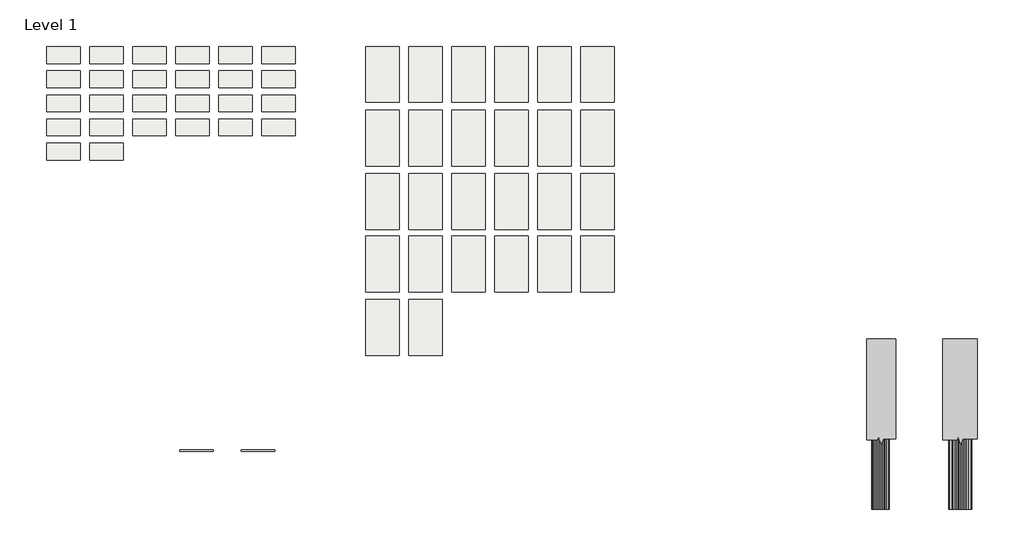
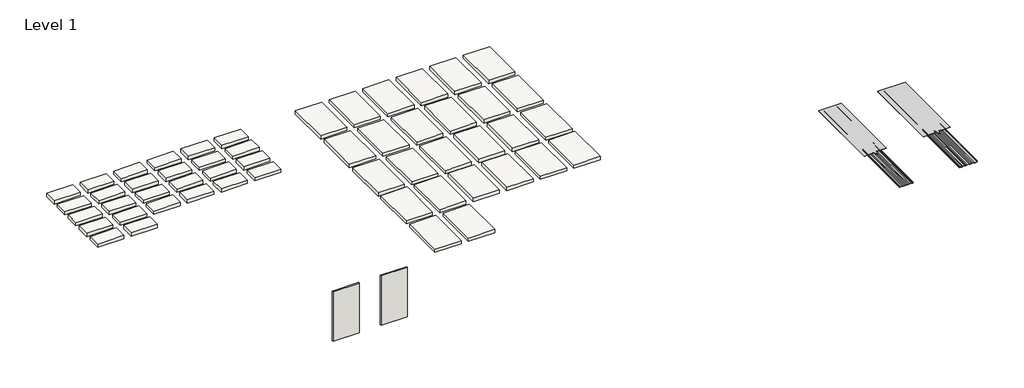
# One storey: 52 slabs, 4 proxies, 2 walls.
"""IFC4 building model written with IfcOpenShell, lengths in millimetres."""

from ifc_helpers import new_model, si_unit, frame, origin, place, context, project, spatial, polyline, outline, extrude, transform, mapped, element, save
from components import section_mask1_section_mask_51df3ead, section_mask2_section_mask_aa1896d1, proxy_a87bcd5d, proxy_86c54d77

model = new_model("IFC4")

# Units and contexts
model_context = context("Model", 3, world=origin())
ifc_project = project(units=[si_unit("LENGTHUNIT", "METRE", prefix="MILLI")], contexts=[model_context])

# Site, building, storey
site = spatial("IfcSite", under=ifc_project)
building = spatial("IfcBuilding", under=site)
storey = spatial("IfcBuildingStorey", under=building, Name="Level 1", Elevation=0.0)

# Proxies
placement = place(None, origin())
section_mask1_section_mask_shape = section_mask1_section_mask_51df3ead(model_context)
element("IfcBuildingElementProxy", 1, Name="Section Mask1 : Section Mask", ObjectType="Section Mask1 : Section Mask", at=placement, inside=storey, context=model_context, shape_type="MappedRepresentation", body=[
    mapped(section_mask1_section_mask_shape, transform((1741.0623297, -275.8300996, -14.2875), x_axis=(1.0, 0.0, 0.0), y_axis=(0.0, 1.0, 0.0), z_axis=(0.0, 0.0, 1.0))),
])
section_mask2_section_mask_shape = section_mask2_section_mask_aa1896d1(model_context)
element("IfcBuildingElementProxy", 2, Name="Section Mask2 : Section Mask", ObjectType="Section Mask2 : Section Mask", at=placement, inside=storey, context=model_context, shape_type="MappedRepresentation", body=[
    mapped(section_mask2_section_mask_shape, transform((3188.8623297, -275.8300996, -14.2875), x_axis=(1.0, 0.0, 0.0), y_axis=(0.0, 1.0, 0.0), z_axis=(0.0, 0.0, 1.0))),
])
proxy_shape = proxy_a87bcd5d(model_context)
element("IfcBuildingElementProxy", 3, Name="Select-Seam-Shingle : 12\" Select Seam - Shingle Cladding - 22ga", ObjectType="Select-Seam-Shingle : 12\" Select Seam - Shingle Cladding - 22ga", at=placement, inside=storey, context=model_context, shape_type="MappedRepresentation", body=[
    mapped(proxy_shape, transform((10226.8298747, 2141.4522943, 0.0), x_axis=(1.0, 0.0, 0.0), y_axis=(0.0, 1.0, 0.0), z_axis=(0.0, 0.0, 1.0))),
])
proxy_2_shape = proxy_86c54d77(model_context)
element("IfcBuildingElementProxy", 4, Name="Select-Seam-Shingle : 16\" Select Seam - Shingle Cladding - 22ga", ObjectType="Select-Seam-Shingle : 16\" Select Seam - Shingle Cladding - 22ga", at=placement, inside=storey, context=model_context, shape_type="MappedRepresentation", body=[
    mapped(proxy_2_shape, transform((11674.6298747, 2141.4522943, 0.0), x_axis=(1.0, 0.0, 0.0), y_axis=(0.0, 1.0, 0.0), z_axis=(0.0, 0.0, 1.0))),
])

# Slabs
element("IfcSlab", 5, ObjectType="AEP Span Material Sample", at=placement, inside=storey, context=model_context, shape_type="SweptSolid", body=[
    extrude(outline(polyline([(-4307.8660775, 7199.3976846), (-4917.4660775, 7199.3976846), (-4917.4660775, 7504.1976846), (-4307.8660775, 7504.1976846), (-4307.8660775, 7199.3976846)])), frame((0.0, 0.0, -79.375), z_axis=(0.0, 0.0, 1.0), x_axis=(1.0, 0.0, 0.0)), (0.0, 0.0, 1.0), 79.375),
])
element("IfcSlab", 6, ObjectType="AEP Span Material Sample", at=placement, inside=storey, context=model_context, shape_type="SweptSolid", body=[
    extrude(outline(polyline([(-3526.8160775, 7199.3976846), (-4136.4160775, 7199.3976846), (-4136.4160775, 7504.1976846), (-3526.8160775, 7504.1976846), (-3526.8160775, 7199.3976846)])), frame((0.0, 0.0, -79.375), z_axis=(0.0, 0.0, 1.0), x_axis=(1.0, 0.0, 0.0)), (0.0, 0.0, 1.0), 79.375),
])
element("IfcSlab", 7, ObjectType="AEP Span Material Sample", at=placement, inside=storey, context=model_context, shape_type="SweptSolid", body=[
    extrude(outline(polyline([(-2745.7660775, 7199.3976846), (-3355.3660775, 7199.3976846), (-3355.3660775, 7504.1976846), (-2745.7660775, 7504.1976846), (-2745.7660775, 7199.3976846)])), frame((0.0, 0.0, -79.375), z_axis=(0.0, 0.0, 1.0), x_axis=(1.0, 0.0, 0.0)), (0.0, 0.0, 1.0), 79.375),
])
element("IfcSlab", 8, ObjectType="AEP Span Material Sample", at=placement, inside=storey, context=model_context, shape_type="SweptSolid", body=[
    extrude(outline(polyline([(-1964.7160775, 7199.3976846), (-2574.3160775, 7199.3976846), (-2574.3160775, 7504.1976846), (-1964.7160775, 7504.1976846), (-1964.7160775, 7199.3976846)])), frame((0.0, 0.0, -79.375), z_axis=(0.0, 0.0, 1.0), x_axis=(1.0, 0.0, 0.0)), (0.0, 0.0, 1.0), 79.375),
])
element("IfcSlab", 9, ObjectType="AEP Span Material Sample", at=placement, inside=storey, context=model_context, shape_type="SweptSolid", body=[
    extrude(outline(polyline([(-1183.6660775, 7199.3976846), (-1793.2660775, 7199.3976846), (-1793.2660775, 7504.1976846), (-1183.6660775, 7504.1976846), (-1183.6660775, 7199.3976846)])), frame((0.0, 0.0, -79.375), z_axis=(0.0, 0.0, 1.0), x_axis=(1.0, 0.0, 0.0)), (0.0, 0.0, 1.0), 79.375),
])
element("IfcSlab", 10, ObjectType="AEP Span Material Sample", at=placement, inside=storey, context=model_context, shape_type="SweptSolid", body=[
    extrude(outline(polyline([(-402.6160775, 7199.3976846), (-1012.2160775, 7199.3976846), (-1012.2160775, 7504.1976846), (-402.6160775, 7504.1976846), (-402.6160775, 7199.3976846)])), frame((0.0, 0.0, -79.375), z_axis=(0.0, 0.0, 1.0), x_axis=(1.0, 0.0, 0.0)), (0.0, 0.0, 1.0), 79.375),
])
element("IfcSlab", 11, ObjectType="AEP Span Material Sample", at=placement, inside=storey, context=model_context, shape_type="SweptSolid", body=[
    extrude(outline(polyline([(-4307.8660775, 6761.2476846), (-4917.4660775, 6761.2476846), (-4917.4660775, 7066.0476846), (-4307.8660775, 7066.0476846), (-4307.8660775, 6761.2476846)])), frame((0.0, 0.0, -79.375), z_axis=(0.0, 0.0, 1.0), x_axis=(1.0, 0.0, 0.0)), (0.0, 0.0, 1.0), 79.375),
])
element("IfcSlab", 12, ObjectType="AEP Span Material Sample", at=placement, inside=storey, context=model_context, shape_type="SweptSolid", body=[
    extrude(outline(polyline([(-3526.8160775, 6761.2476846), (-4136.4160775, 6761.2476846), (-4136.4160775, 7066.0476846), (-3526.8160775, 7066.0476846), (-3526.8160775, 6761.2476846)])), frame((0.0, 0.0, -79.375), z_axis=(0.0, 0.0, 1.0), x_axis=(1.0, 0.0, 0.0)), (0.0, 0.0, 1.0), 79.375),
])
element("IfcSlab", 13, ObjectType="AEP Span Material Sample", at=placement, inside=storey, context=model_context, shape_type="SweptSolid", body=[
    extrude(outline(polyline([(-2745.7660775, 6761.2476846), (-3355.3660775, 6761.2476846), (-3355.3660775, 7066.0476846), (-2745.7660775, 7066.0476846), (-2745.7660775, 6761.2476846)])), frame((0.0, 0.0, -79.375), z_axis=(0.0, 0.0, 1.0), x_axis=(1.0, 0.0, 0.0)), (0.0, 0.0, 1.0), 79.375),
])
element("IfcSlab", 14, ObjectType="AEP Span Material Sample", at=placement, inside=storey, context=model_context, shape_type="SweptSolid", body=[
    extrude(outline(polyline([(-1964.7160775, 6761.2476846), (-2574.3160775, 6761.2476846), (-2574.3160775, 7066.0476846), (-1964.7160775, 7066.0476846), (-1964.7160775, 6761.2476846)])), frame((0.0, 0.0, -79.375), z_axis=(0.0, 0.0, 1.0), x_axis=(1.0, 0.0, 0.0)), (0.0, 0.0, 1.0), 79.375),
])
element("IfcSlab", 15, ObjectType="AEP Span Material Sample", at=placement, inside=storey, context=model_context, shape_type="SweptSolid", body=[
    extrude(outline(polyline([(-1183.6660775, 6761.2476846), (-1793.2660775, 6761.2476846), (-1793.2660775, 7066.0476846), (-1183.6660775, 7066.0476846), (-1183.6660775, 6761.2476846)])), frame((0.0, 0.0, -79.375), z_axis=(0.0, 0.0, 1.0), x_axis=(1.0, 0.0, 0.0)), (0.0, 0.0, 1.0), 79.375),
])
element("IfcSlab", 16, ObjectType="AEP Span Material Sample", at=placement, inside=storey, context=model_context, shape_type="SweptSolid", body=[
    extrude(outline(polyline([(-402.6160775, 6761.2476846), (-1012.2160775, 6761.2476846), (-1012.2160775, 7066.0476846), (-402.6160775, 7066.0476846), (-402.6160775, 6761.2476846)])), frame((0.0, 0.0, -79.375), z_axis=(0.0, 0.0, 1.0), x_axis=(1.0, 0.0, 0.0)), (0.0, 0.0, 1.0), 79.375),
])
element("IfcSlab", 17, ObjectType="AEP Span Material Sample", at=placement, inside=storey, context=model_context, shape_type="SweptSolid", body=[
    extrude(outline(polyline([(-4307.8660775, 6323.0976846), (-4917.4660775, 6323.0976846), (-4917.4660775, 6627.8976846), (-4307.8660775, 6627.8976846), (-4307.8660775, 6323.0976846)])), frame((0.0, 0.0, -79.375), z_axis=(0.0, 0.0, 1.0), x_axis=(1.0, 0.0, 0.0)), (0.0, 0.0, 1.0), 79.375),
])
element("IfcSlab", 18, ObjectType="AEP Span Material Sample", at=placement, inside=storey, context=model_context, shape_type="SweptSolid", body=[
    extrude(outline(polyline([(-3526.8160775, 6323.0976846), (-4136.4160775, 6323.0976846), (-4136.4160775, 6627.8976846), (-3526.8160775, 6627.8976846), (-3526.8160775, 6323.0976846)])), frame((0.0, 0.0, -79.375), z_axis=(0.0, 0.0, 1.0), x_axis=(1.0, 0.0, 0.0)), (0.0, 0.0, 1.0), 79.375),
])
element("IfcSlab", 19, ObjectType="AEP Span Material Sample", at=placement, inside=storey, context=model_context, shape_type="SweptSolid", body=[
    extrude(outline(polyline([(-2745.7660775, 6323.0976846), (-3355.3660775, 6323.0976846), (-3355.3660775, 6627.8976846), (-2745.7660775, 6627.8976846), (-2745.7660775, 6323.0976846)])), frame((0.0, 0.0, -79.375), z_axis=(0.0, 0.0, 1.0), x_axis=(1.0, 0.0, 0.0)), (0.0, 0.0, 1.0), 79.375),
])
element("IfcSlab", 20, ObjectType="AEP Span Material Sample", at=placement, inside=storey, context=model_context, shape_type="SweptSolid", body=[
    extrude(outline(polyline([(-1964.7160775, 6323.0976846), (-2574.3160775, 6323.0976846), (-2574.3160775, 6627.8976846), (-1964.7160775, 6627.8976846), (-1964.7160775, 6323.0976846)])), frame((0.0, 0.0, -79.375), z_axis=(0.0, 0.0, 1.0), x_axis=(1.0, 0.0, 0.0)), (0.0, 0.0, 1.0), 79.375),
])
element("IfcSlab", 21, ObjectType="AEP Span Material Sample", at=placement, inside=storey, context=model_context, shape_type="SweptSolid", body=[
    extrude(outline(polyline([(-1183.6660775, 6323.0976846), (-1793.2660775, 6323.0976846), (-1793.2660775, 6627.8976846), (-1183.6660775, 6627.8976846), (-1183.6660775, 6323.0976846)])), frame((0.0, 0.0, -79.375), z_axis=(0.0, 0.0, 1.0), x_axis=(1.0, 0.0, 0.0)), (0.0, 0.0, 1.0), 79.375),
])
element("IfcSlab", 22, ObjectType="AEP Span Material Sample", at=placement, inside=storey, context=model_context, shape_type="SweptSolid", body=[
    extrude(outline(polyline([(-402.6160775, 6323.0976846), (-1012.2160775, 6323.0976846), (-1012.2160775, 6627.8976846), (-402.6160775, 6627.8976846), (-402.6160775, 6323.0976846)])), frame((0.0, 0.0, -79.375), z_axis=(0.0, 0.0, 1.0), x_axis=(1.0, 0.0, 0.0)), (0.0, 0.0, 1.0), 79.375),
])
element("IfcSlab", 23, ObjectType="AEP Span Material Sample", at=placement, inside=storey, context=model_context, shape_type="SweptSolid", body=[
    extrude(outline(polyline([(-4307.8660775, 5884.9476846), (-4917.4660775, 5884.9476846), (-4917.4660775, 6189.7476846), (-4307.8660775, 6189.7476846), (-4307.8660775, 5884.9476846)])), frame((0.0, 0.0, -79.375), z_axis=(0.0, 0.0, 1.0), x_axis=(1.0, 0.0, 0.0)), (0.0, 0.0, 1.0), 79.375),
])
element("IfcSlab", 24, ObjectType="AEP Span Material Sample", at=placement, inside=storey, context=model_context, shape_type="SweptSolid", body=[
    extrude(outline(polyline([(-3526.8160775, 5884.9476846), (-4136.4160775, 5884.9476846), (-4136.4160775, 6189.7476846), (-3526.8160775, 6189.7476846), (-3526.8160775, 5884.9476846)])), frame((0.0, 0.0, -79.375), z_axis=(0.0, 0.0, 1.0), x_axis=(1.0, 0.0, 0.0)), (0.0, 0.0, 1.0), 79.375),
])
element("IfcSlab", 25, ObjectType="AEP Span Material Sample", at=placement, inside=storey, context=model_context, shape_type="SweptSolid", body=[
    extrude(outline(polyline([(-2745.7660775, 5884.9476846), (-3355.3660775, 5884.9476846), (-3355.3660775, 6189.7476846), (-2745.7660775, 6189.7476846), (-2745.7660775, 5884.9476846)])), frame((0.0, 0.0, -79.375), z_axis=(0.0, 0.0, 1.0), x_axis=(1.0, 0.0, 0.0)), (0.0, 0.0, 1.0), 79.375),
])
element("IfcSlab", 26, ObjectType="AEP Span Material Sample", at=placement, inside=storey, context=model_context, shape_type="SweptSolid", body=[
    extrude(outline(polyline([(-1964.7160775, 5884.9476846), (-2574.3160775, 5884.9476846), (-2574.3160775, 6189.7476846), (-1964.7160775, 6189.7476846), (-1964.7160775, 5884.9476846)])), frame((0.0, 0.0, -79.375), z_axis=(0.0, 0.0, 1.0), x_axis=(1.0, 0.0, 0.0)), (0.0, 0.0, 1.0), 79.375),
])
element("IfcSlab", 27, ObjectType="AEP Span Material Sample", at=placement, inside=storey, context=model_context, shape_type="SweptSolid", body=[
    extrude(outline(polyline([(-1183.6660775, 5884.9476846), (-1793.2660775, 5884.9476846), (-1793.2660775, 6189.7476846), (-1183.6660775, 6189.7476846), (-1183.6660775, 5884.9476846)])), frame((0.0, 0.0, -79.375), z_axis=(0.0, 0.0, 1.0), x_axis=(1.0, 0.0, 0.0)), (0.0, 0.0, 1.0), 79.375),
])
element("IfcSlab", 28, ObjectType="AEP Span Material Sample", at=placement, inside=storey, context=model_context, shape_type="SweptSolid", body=[
    extrude(outline(polyline([(-402.6160775, 5884.9476846), (-1012.2160775, 5884.9476846), (-1012.2160775, 6189.7476846), (-402.6160775, 6189.7476846), (-402.6160775, 5884.9476846)])), frame((0.0, 0.0, -79.375), z_axis=(0.0, 0.0, 1.0), x_axis=(1.0, 0.0, 0.0)), (0.0, 0.0, 1.0), 79.375),
])
element("IfcSlab", 29, ObjectType="AEP Span Material Sample", at=placement, inside=storey, context=model_context, shape_type="SweptSolid", body=[
    extrude(outline(polyline([(-4307.8660775, 5446.7976846), (-4917.4660775, 5446.7976846), (-4917.4660775, 5751.5976846), (-4307.8660775, 5751.5976846), (-4307.8660775, 5446.7976846)])), frame((0.0, 0.0, -79.375), z_axis=(0.0, 0.0, 1.0), x_axis=(1.0, 0.0, 0.0)), (0.0, 0.0, 1.0), 79.375),
])
element("IfcSlab", 30, ObjectType="AEP Span Material Sample", at=placement, inside=storey, context=model_context, shape_type="SweptSolid", body=[
    extrude(outline(polyline([(-3526.8160775, 5446.7976846), (-4136.4160775, 5446.7976846), (-4136.4160775, 5751.5976846), (-3526.8160775, 5751.5976846), (-3526.8160775, 5446.7976846)])), frame((0.0, 0.0, -79.375), z_axis=(0.0, 0.0, 1.0), x_axis=(1.0, 0.0, 0.0)), (0.0, 0.0, 1.0), 79.375),
])
element("IfcSlab", 31, ObjectType="AEP Span Material Sample", at=placement, inside=storey, context=model_context, shape_type="SweptSolid", body=[
    extrude(outline(polyline([(1485.5495194, 6492.0895229), (875.9495194, 6492.0895229), (875.9495194, 7508.0895229), (1485.5495194, 7508.0895229), (1485.5495194, 6492.0895229)])), frame((0.0, 0.0, -79.375), z_axis=(0.0, 0.0, 1.0), x_axis=(1.0, 0.0, 0.0)), (0.0, 0.0, 1.0), 79.375),
])
element("IfcSlab", 32, ObjectType="AEP Span Material Sample", at=placement, inside=storey, context=model_context, shape_type="SweptSolid", body=[
    extrude(outline(polyline([(2266.5995194, 6492.0895229), (1656.9995194, 6492.0895229), (1656.9995194, 7508.0895229), (2266.5995194, 7508.0895229), (2266.5995194, 6492.0895229)])), frame((0.0, 0.0, -79.375), z_axis=(0.0, 0.0, 1.0), x_axis=(1.0, 0.0, 0.0)), (0.0, 0.0, 1.0), 79.375),
])
element("IfcSlab", 33, ObjectType="AEP Span Material Sample", at=placement, inside=storey, context=model_context, shape_type="SweptSolid", body=[
    extrude(outline(polyline([(3047.6495194, 6492.0895229), (2438.0495194, 6492.0895229), (2438.0495194, 7508.0895229), (3047.6495194, 7508.0895229), (3047.6495194, 6492.0895229)])), frame((0.0, 0.0, -79.375), z_axis=(0.0, 0.0, 1.0), x_axis=(1.0, 0.0, 0.0)), (0.0, 0.0, 1.0), 79.375),
])
element("IfcSlab", 34, ObjectType="AEP Span Material Sample", at=placement, inside=storey, context=model_context, shape_type="SweptSolid", body=[
    extrude(outline(polyline([(3828.6995194, 6492.0895229), (3219.0995194, 6492.0895229), (3219.0995194, 7508.0895229), (3828.6995194, 7508.0895229), (3828.6995194, 6492.0895229)])), frame((0.0, 0.0, -79.375), z_axis=(0.0, 0.0, 1.0), x_axis=(1.0, 0.0, 0.0)), (0.0, 0.0, 1.0), 79.375),
])
element("IfcSlab", 35, ObjectType="AEP Span Material Sample", at=placement, inside=storey, context=model_context, shape_type="SweptSolid", body=[
    extrude(outline(polyline([(4609.7495194, 6492.0895229), (4000.1495194, 6492.0895229), (4000.1495194, 7508.0895229), (4609.7495194, 7508.0895229), (4609.7495194, 6492.0895229)])), frame((0.0, 0.0, -79.375), z_axis=(0.0, 0.0, 1.0), x_axis=(1.0, 0.0, 0.0)), (0.0, 0.0, 1.0), 79.375),
])
element("IfcSlab", 36, ObjectType="AEP Span Material Sample", at=placement, inside=storey, context=model_context, shape_type="SweptSolid", body=[
    extrude(outline(polyline([(5390.7995194, 6492.0895229), (4781.1995194, 6492.0895229), (4781.1995194, 7508.0895229), (5390.7995194, 7508.0895229), (5390.7995194, 6492.0895229)])), frame((0.0, 0.0, -79.375), z_axis=(0.0, 0.0, 1.0), x_axis=(1.0, 0.0, 0.0)), (0.0, 0.0, 1.0), 79.375),
])
element("IfcSlab", 37, ObjectType="AEP Span Material Sample", at=placement, inside=storey, context=model_context, shape_type="SweptSolid", body=[
    extrude(outline(polyline([(1485.5495194, 5336.3895229), (875.9495194, 5336.3895229), (875.9495194, 6352.3895229), (1485.5495194, 6352.3895229), (1485.5495194, 5336.3895229)])), frame((0.0, 0.0, -79.375), z_axis=(0.0, 0.0, 1.0), x_axis=(1.0, 0.0, 0.0)), (0.0, 0.0, 1.0), 79.375),
])
element("IfcSlab", 38, ObjectType="AEP Span Material Sample", at=placement, inside=storey, context=model_context, shape_type="SweptSolid", body=[
    extrude(outline(polyline([(2266.5995194, 5336.3895229), (1656.9995194, 5336.3895229), (1656.9995194, 6352.3895229), (2266.5995194, 6352.3895229), (2266.5995194, 5336.3895229)])), frame((0.0, 0.0, -79.375), z_axis=(0.0, 0.0, 1.0), x_axis=(1.0, 0.0, 0.0)), (0.0, 0.0, 1.0), 79.375),
])
element("IfcSlab", 39, ObjectType="AEP Span Material Sample", at=placement, inside=storey, context=model_context, shape_type="SweptSolid", body=[
    extrude(outline(polyline([(3047.6495194, 5336.3895229), (2438.0495194, 5336.3895229), (2438.0495194, 6352.3895229), (3047.6495194, 6352.3895229), (3047.6495194, 5336.3895229)])), frame((0.0, 0.0, -79.375), z_axis=(0.0, 0.0, 1.0), x_axis=(1.0, 0.0, 0.0)), (0.0, 0.0, 1.0), 79.375),
])
element("IfcSlab", 40, ObjectType="AEP Span Material Sample", at=placement, inside=storey, context=model_context, shape_type="SweptSolid", body=[
    extrude(outline(polyline([(3828.6995194, 5336.3895229), (3219.0995194, 5336.3895229), (3219.0995194, 6352.3895229), (3828.6995194, 6352.3895229), (3828.6995194, 5336.3895229)])), frame((0.0, 0.0, -79.375), z_axis=(0.0, 0.0, 1.0), x_axis=(1.0, 0.0, 0.0)), (0.0, 0.0, 1.0), 79.375),
])
element("IfcSlab", 41, ObjectType="AEP Span Material Sample", at=placement, inside=storey, context=model_context, shape_type="SweptSolid", body=[
    extrude(outline(polyline([(4609.7495194, 5336.3895229), (4000.1495194, 5336.3895229), (4000.1495194, 6352.3895229), (4609.7495194, 6352.3895229), (4609.7495194, 5336.3895229)])), frame((0.0, 0.0, -79.375), z_axis=(0.0, 0.0, 1.0), x_axis=(1.0, 0.0, 0.0)), (0.0, 0.0, 1.0), 79.375),
])
element("IfcSlab", 42, ObjectType="AEP Span Material Sample", at=placement, inside=storey, context=model_context, shape_type="SweptSolid", body=[
    extrude(outline(polyline([(5390.7995194, 5336.3895229), (4781.1995194, 5336.3895229), (4781.1995194, 6352.3895229), (5390.7995194, 6352.3895229), (5390.7995194, 5336.3895229)])), frame((0.0, 0.0, -79.375), z_axis=(0.0, 0.0, 1.0), x_axis=(1.0, 0.0, 0.0)), (0.0, 0.0, 1.0), 79.375),
])
element("IfcSlab", 43, ObjectType="AEP Span Material Sample", at=placement, inside=storey, context=model_context, shape_type="SweptSolid", body=[
    extrude(outline(polyline([(1485.5495194, 4180.6895229), (875.9495194, 4180.6895229), (875.9495194, 5196.6895229), (1485.5495194, 5196.6895229), (1485.5495194, 4180.6895229)])), frame((0.0, 0.0, -79.375), z_axis=(0.0, 0.0, 1.0), x_axis=(1.0, 0.0, 0.0)), (0.0, 0.0, 1.0), 79.375),
])
element("IfcSlab", 44, ObjectType="AEP Span Material Sample", at=placement, inside=storey, context=model_context, shape_type="SweptSolid", body=[
    extrude(outline(polyline([(2266.5995194, 4180.6895229), (1656.9995194, 4180.6895229), (1656.9995194, 5196.6895229), (2266.5995194, 5196.6895229), (2266.5995194, 4180.6895229)])), frame((0.0, 0.0, -79.375), z_axis=(0.0, 0.0, 1.0), x_axis=(1.0, 0.0, 0.0)), (0.0, 0.0, 1.0), 79.375),
])
element("IfcSlab", 45, ObjectType="AEP Span Material Sample", at=placement, inside=storey, context=model_context, shape_type="SweptSolid", body=[
    extrude(outline(polyline([(3047.6495194, 4180.6895229), (2438.0495194, 4180.6895229), (2438.0495194, 5196.6895229), (3047.6495194, 5196.6895229), (3047.6495194, 4180.6895229)])), frame((0.0, 0.0, -79.375), z_axis=(0.0, 0.0, 1.0), x_axis=(1.0, 0.0, 0.0)), (0.0, 0.0, 1.0), 79.375),
])
element("IfcSlab", 46, ObjectType="AEP Span Material Sample", at=placement, inside=storey, context=model_context, shape_type="SweptSolid", body=[
    extrude(outline(polyline([(3828.6995194, 4180.6895229), (3219.0995194, 4180.6895229), (3219.0995194, 5196.6895229), (3828.6995194, 5196.6895229), (3828.6995194, 4180.6895229)])), frame((0.0, 0.0, -79.375), z_axis=(0.0, 0.0, 1.0), x_axis=(1.0, 0.0, 0.0)), (0.0, 0.0, 1.0), 79.375),
])
element("IfcSlab", 47, ObjectType="AEP Span Material Sample", at=placement, inside=storey, context=model_context, shape_type="SweptSolid", body=[
    extrude(outline(polyline([(4609.7495194, 4180.6895229), (4000.1495194, 4180.6895229), (4000.1495194, 5196.6895229), (4609.7495194, 5196.6895229), (4609.7495194, 4180.6895229)])), frame((0.0, 0.0, -79.375), z_axis=(0.0, 0.0, 1.0), x_axis=(1.0, 0.0, 0.0)), (0.0, 0.0, 1.0), 79.375),
])
element("IfcSlab", 48, ObjectType="AEP Span Material Sample", at=placement, inside=storey, context=model_context, shape_type="SweptSolid", body=[
    extrude(outline(polyline([(5390.7995194, 4180.6895229), (4781.1995194, 4180.6895229), (4781.1995194, 5196.6895229), (5390.7995194, 5196.6895229), (5390.7995194, 4180.6895229)])), frame((0.0, 0.0, -79.375), z_axis=(0.0, 0.0, 1.0), x_axis=(1.0, 0.0, 0.0)), (0.0, 0.0, 1.0), 79.375),
])
element("IfcSlab", 49, ObjectType="AEP Span Material Sample", at=placement, inside=storey, context=model_context, shape_type="SweptSolid", body=[
    extrude(outline(polyline([(1485.5495194, 3050.3895229), (875.9495194, 3050.3895229), (875.9495194, 4066.3895229), (1485.5495194, 4066.3895229), (1485.5495194, 3050.3895229)])), frame((0.0, 0.0, -79.375), z_axis=(0.0, 0.0, 1.0), x_axis=(1.0, 0.0, 0.0)), (0.0, 0.0, 1.0), 79.375),
])
element("IfcSlab", 50, ObjectType="AEP Span Material Sample", at=placement, inside=storey, context=model_context, shape_type="SweptSolid", body=[
    extrude(outline(polyline([(2266.5995194, 3050.3895229), (1656.9995194, 3050.3895229), (1656.9995194, 4066.3895229), (2266.5995194, 4066.3895229), (2266.5995194, 3050.3895229)])), frame((0.0, 0.0, -79.375), z_axis=(0.0, 0.0, 1.0), x_axis=(1.0, 0.0, 0.0)), (0.0, 0.0, 1.0), 79.375),
])
element("IfcSlab", 51, ObjectType="AEP Span Material Sample", at=placement, inside=storey, context=model_context, shape_type="SweptSolid", body=[
    extrude(outline(polyline([(3047.6495194, 3050.3895229), (2438.0495194, 3050.3895229), (2438.0495194, 4066.3895229), (3047.6495194, 4066.3895229), (3047.6495194, 3050.3895229)])), frame((0.0, 0.0, -79.375), z_axis=(0.0, 0.0, 1.0), x_axis=(1.0, 0.0, 0.0)), (0.0, 0.0, 1.0), 79.375),
])
element("IfcSlab", 52, ObjectType="AEP Span Material Sample", at=placement, inside=storey, context=model_context, shape_type="SweptSolid", body=[
    extrude(outline(polyline([(3828.6995194, 3050.3895229), (3219.0995194, 3050.3895229), (3219.0995194, 4066.3895229), (3828.6995194, 4066.3895229), (3828.6995194, 3050.3895229)])), frame((0.0, 0.0, -79.375), z_axis=(0.0, 0.0, 1.0), x_axis=(1.0, 0.0, 0.0)), (0.0, 0.0, 1.0), 79.375),
])
element("IfcSlab", 53, ObjectType="AEP Span Material Sample", at=placement, inside=storey, context=model_context, shape_type="SweptSolid", body=[
    extrude(outline(polyline([(4609.7495194, 3050.3895229), (4000.1495194, 3050.3895229), (4000.1495194, 4066.3895229), (4609.7495194, 4066.3895229), (4609.7495194, 3050.3895229)])), frame((0.0, 0.0, -79.375), z_axis=(0.0, 0.0, 1.0), x_axis=(1.0, 0.0, 0.0)), (0.0, 0.0, 1.0), 79.375),
])
element("IfcSlab", 54, ObjectType="AEP Span Material Sample", at=placement, inside=storey, context=model_context, shape_type="SweptSolid", body=[
    extrude(outline(polyline([(5390.7995194, 3050.3895229), (4781.1995194, 3050.3895229), (4781.1995194, 4066.3895229), (5390.7995194, 4066.3895229), (5390.7995194, 3050.3895229)])), frame((0.0, 0.0, -79.375), z_axis=(0.0, 0.0, 1.0), x_axis=(1.0, 0.0, 0.0)), (0.0, 0.0, 1.0), 79.375),
])
element("IfcSlab", 55, ObjectType="AEP Span Material Sample", at=placement, inside=storey, context=model_context, shape_type="SweptSolid", body=[
    extrude(outline(polyline([(1485.5495194, 1894.6895229), (875.9495194, 1894.6895229), (875.9495194, 2910.6895229), (1485.5495194, 2910.6895229), (1485.5495194, 1894.6895229)])), frame((0.0, 0.0, -79.375), z_axis=(0.0, 0.0, 1.0), x_axis=(1.0, 0.0, 0.0)), (0.0, 0.0, 1.0), 79.375),
])
element("IfcSlab", 56, ObjectType="AEP Span Material Sample", at=placement, inside=storey, context=model_context, shape_type="SweptSolid", body=[
    extrude(outline(polyline([(2266.5995194, 1894.6895229), (1656.9995194, 1894.6895229), (1656.9995194, 2910.6895229), (2266.5995194, 2910.6895229), (2266.5995194, 1894.6895229)])), frame((0.0, 0.0, -79.375), z_axis=(0.0, 0.0, 1.0), x_axis=(1.0, 0.0, 0.0)), (0.0, 0.0, 1.0), 79.375),
])

# Walls
element("IfcWall", 57, ObjectType="12\" Select Seam - Shingle Cladding - 22ga", at=placement, inside=storey, context=model_context, shape_type="SweptSolid", body=[
    extrude(outline(polyline([(-1890.5575546, 147.5522943), (-2500.1575546, 147.5522943), (-2500.1575546, 172.9522943), (-1890.5575546, 172.9522943), (-1890.5575546, 147.5522943)])), frame((0.0, 0.0, -24.8558099), z_axis=(0.0, 0.0, 1.0), x_axis=(1.0, 0.0, 0.0)), (0.0, 0.0, 1.0), 1219.2),
])
element("IfcWall", 58, ObjectType="16\" Select Seam - Shingle Cladding - 22ga", at=placement, inside=storey, context=model_context, shape_type="SweptSolid", body=[
    extrude(outline(polyline([(-772.9575546, 147.5522943), (-1382.5575546, 147.5522943), (-1382.5575546, 172.9522943), (-772.9575546, 172.9522943), (-772.9575546, 147.5522943)])), frame((0.0, 0.0, -24.8558099), z_axis=(0.0, 0.0, 1.0), x_axis=(1.0, 0.0, 0.0)), (0.0, 0.0, 1.0), 1219.2),
])

save(model, "model.ifc")
